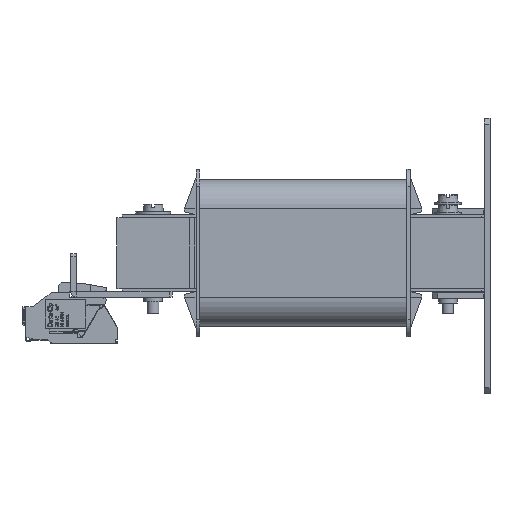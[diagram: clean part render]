
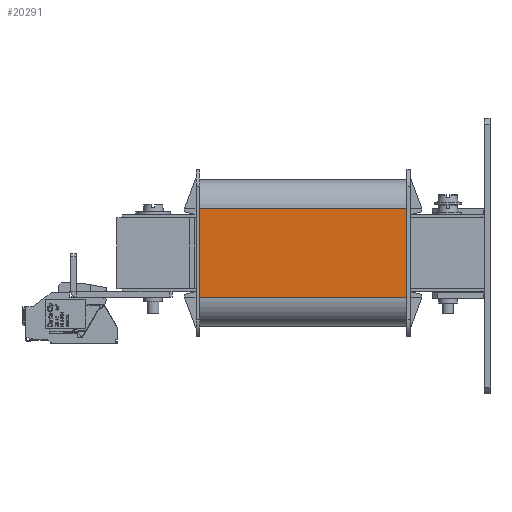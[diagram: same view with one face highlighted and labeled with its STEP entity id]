
A CAD part, left-side view. The second image highlights one B-rep face of the part: STEP entity #20291.
In plain terms, the highlighted planar face has unit normal (-1, 0, 0) as drawn and (0, 0, 1) by its records, which use the part's own axes.
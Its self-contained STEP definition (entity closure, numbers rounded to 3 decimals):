
#6600 = CARTESIAN_POINT ( 'NONE',  ( 15.25, 71.6, 24.8 ) ) ;
#13380 = CARTESIAN_POINT ( 'NONE',  ( -25.25, 71.6, 24.8 ) ) ;
#14253 = VERTEX_POINT ( 'NONE', #57975 ) ;
#16447 = DIRECTION ( 'NONE',  ( 0., 1., 0. ) ) ;
#16645 = VECTOR ( 'NONE', #35913, 1000. ) ;
#17564 = DIRECTION ( 'NONE',  ( -1., 0., 0. ) ) ;
#17688 = VERTEX_POINT ( 'NONE', #6600 ) ;
#17962 = ORIENTED_EDGE ( 'NONE', *, *, #23057, .T. ) ;
#20291 = ADVANCED_FACE ( 'NONE', ( #85736 ), #39766, .F. ) ;
#23057 = EDGE_CURVE ( 'NONE', #29596, #14253, #37442, .T. ) ;
#29596 = VERTEX_POINT ( 'NONE', #45163 ) ;
#31543 = EDGE_CURVE ( 'NONE', #42418, #29596, #36105, .T. ) ;
#32768 = VECTOR ( 'NONE', #54217, 1000. ) ;
#34238 = EDGE_CURVE ( 'NONE', #14253, #17688, #91555, .T. ) ;
#35913 = DIRECTION ( 'NONE',  ( 1., 0., 0. ) ) ;
#36105 = LINE ( 'NONE', #39899, #90880 ) ;
#37442 = LINE ( 'NONE', #46760, #32768 ) ;
#37790 = ORIENTED_EDGE ( 'NONE', *, *, #31543, .T. ) ;
#39554 = AXIS2_PLACEMENT_3D ( 'NONE', #54682, #62158, #17564 ) ;
#39766 = PLANE ( 'NONE',  #39554 ) ;
#39899 = CARTESIAN_POINT ( 'NONE',  ( -15.25, 71.6, 24.8 ) ) ;
#42418 = VERTEX_POINT ( 'NONE', #62600 ) ;
#43487 = EDGE_LOOP ( 'NONE', ( #47782, #37790, #17962, #50688 ) ) ;
#45163 = CARTESIAN_POINT ( 'NONE',  ( -15.25, 0., 24.8 ) ) ;
#46760 = CARTESIAN_POINT ( 'NONE',  ( -25.25, 0., 24.8 ) ) ;
#47782 = ORIENTED_EDGE ( 'NONE', *, *, #56564, .F. ) ;
#50688 = ORIENTED_EDGE ( 'NONE', *, *, #34238, .T. ) ;
#53549 = CARTESIAN_POINT ( 'NONE',  ( 15.25, 71.6, 24.8 ) ) ;
#54217 = DIRECTION ( 'NONE',  ( 1., 0., 0. ) ) ;
#54682 = CARTESIAN_POINT ( 'NONE',  ( -25.25, 71.6, 24.8 ) ) ;
#56564 = EDGE_CURVE ( 'NONE', #42418, #17688, #95934, .T. ) ;
#57975 = CARTESIAN_POINT ( 'NONE',  ( 15.25, 0., 24.8 ) ) ;
#62158 = DIRECTION ( 'NONE',  ( 0., 0., -1. ) ) ;
#62285 = DIRECTION ( 'NONE',  ( 0., -1., 0. ) ) ;
#62600 = CARTESIAN_POINT ( 'NONE',  ( -15.25, 71.6, 24.8 ) ) ;
#85736 = FACE_OUTER_BOUND ( 'NONE', #43487, .T. ) ;
#86917 = VECTOR ( 'NONE', #16447, 1000. ) ;
#90880 = VECTOR ( 'NONE', #62285, 1000. ) ;
#91555 = LINE ( 'NONE', #53549, #86917 ) ;
#95934 = LINE ( 'NONE', #13380, #16645 ) ;
